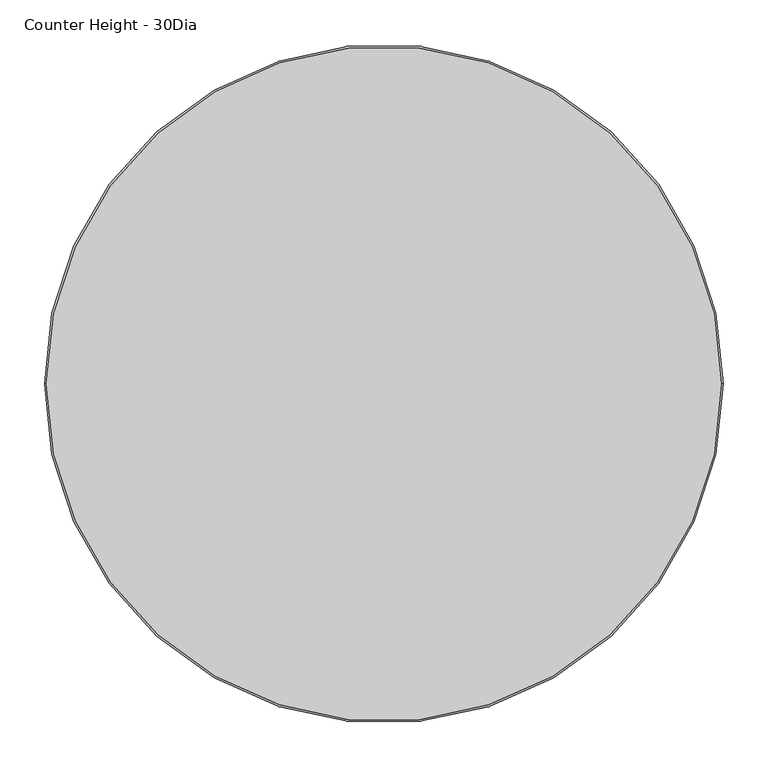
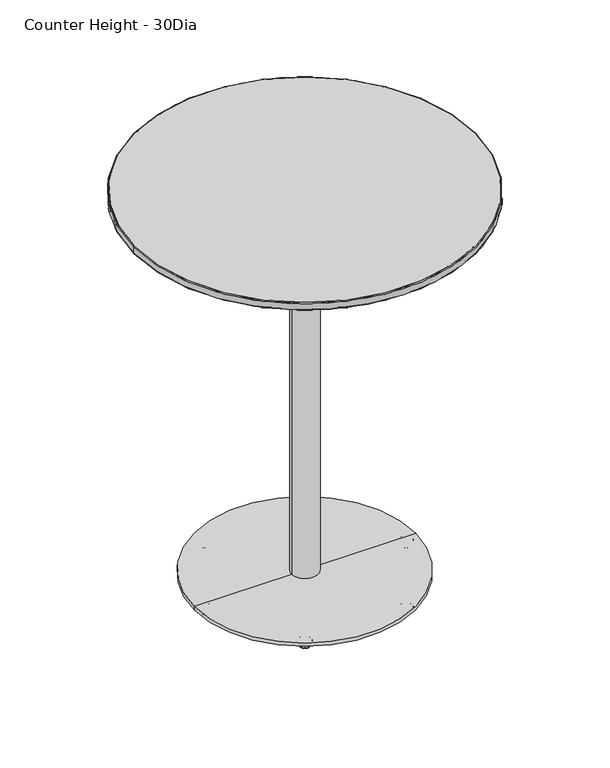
"""IFC4 building model written with IfcOpenShell, lengths in millimetres: furniture geometry, Coalesse_AM_Table_Occasional_Montara650Table_CafeHeight_Round : Counter Height - 30Dia."""

from ifc_helpers import new_model, si_unit, point, frame, origin, origin_with_axes, origin_2d, place, context, project, spatial, polyline, circle_curve, ellipse_curve, trimmed, segment, composite_curve, outline, extrude, source, transform, mapped, element, save
from ifc_brep_helpers import plane_surface, cylinder_surface, revolved_surface, advanced_brep


def counter_height_30dia_2e3c6b03(model_context):
    return source(origin(), model_context, "Body", "SolidModel", [
        advanced_brep(
        [(-112.4946772, 194.8464965, 0.0), (-117.6867095, 203.8393602, 0.0), (-107.302645, 185.8536329, 0.0), (-118.0731448, 204.5086859, 0.5718943), (-106.9162096, 185.1843072, 0.5718943), (-119.6988534, 207.3244957, 11.2068005), (-105.290501, 182.3684973, 11.2068005), (-119.4053894, 206.8162011, 11.9999882), (-105.5839651, 182.8767919, 11.9999882), (-112.4946772, 194.8464965, 11.9999882)],
        [
            (0, 1),
            (1, 2, circle_curve(frame((-112.4946772, 194.8464965, 0.0), z_axis=(0.0, 0.0, -1.0), x_axis=(-0.5000000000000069, 0.8660254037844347, 0.0)), 10.3840645)),
            (2, 0),
            (2, 1, circle_curve(frame((-112.4946772, 194.8464965, 0.0), z_axis=(0.0, 0.0, -1.0), x_axis=(-0.5000000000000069, 0.8660254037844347, 0.0)), 10.3840645)),
            (1, 3, circle_curve(frame((-117.6867095, 203.8393602, 0.8081846), z_axis=(0.8660254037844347, 0.5000000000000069, 0.0), x_axis=(-0.5000000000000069, 0.8660254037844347, 0.0)), 0.8081846)),
            (3, 4, circle_curve(frame((-112.4946772, 194.8464965, 0.5718943), z_axis=(0.0, 0.0, -1.0), x_axis=(-0.5000000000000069, 0.8660254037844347, 0.0)), 11.1569353)),
            (4, 2, circle_curve(frame((-107.302645, 185.8536329, 0.8081846), z_axis=(0.866025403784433, 0.5000000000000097, 0.0), x_axis=(0.5000000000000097, -0.866025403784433, 0.0)), 0.8081846)),
            (4, 3, circle_curve(frame((-112.4946772, 194.8464965, 0.5718943), z_axis=(0.0, 0.0, -1.0), x_axis=(-0.5000000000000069, 0.8660254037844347, 0.0)), 11.1569353)),
            (3, 5),
            (5, 6, circle_curve(frame((-112.4946772, 194.8464965, 11.2068005), z_axis=(0.0, 0.0, -1.0), x_axis=(-0.5000000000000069, 0.8660254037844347, 0.0)), 14.4083524)),
            (6, 4),
            (6, 5, circle_curve(frame((-112.4946772, 194.8464965, 11.2068005), z_axis=(0.0, 0.0, -1.0), x_axis=(-0.5000000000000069, 0.8660254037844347, 0.0)), 14.4083524)),
            (5, 7, circle_curve(frame((-119.4053894, 206.8162011, 11.3862424), z_axis=(0.8660254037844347, 0.5000000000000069, 0.0), x_axis=(-0.5000000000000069, 0.8660254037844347, 0.0)), 0.6137458)),
            (7, 8, circle_curve(frame((-112.4946772, 194.8464965, 11.9999882), z_axis=(0.0, 0.0, -1.0), x_axis=(-0.5000000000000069, 0.8660254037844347, 0.0)), 13.8214243)),
            (8, 6, circle_curve(frame((-105.5839651, 182.8767919, 11.3862424), z_axis=(0.866025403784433, 0.5000000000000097, 0.0), x_axis=(0.5000000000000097, -0.866025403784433, 0.0)), 0.6137458)),
            (8, 7, circle_curve(frame((-112.4946772, 194.8464965, 11.9999882), z_axis=(0.0, 0.0, -1.0), x_axis=(-0.5000000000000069, 0.8660254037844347, 0.0)), 13.8214243)),
            (7, 9),
            (9, 8),
        ],
        [
            plane_surface(frame((-112.4946772, 194.8464965, 0.0), z_axis=(0.0, 0.0, -1.0), x_axis=(-0.5000000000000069, 0.8660254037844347, 0.0))),
            revolved_surface(trimmed(ellipse_curve(frame((-117.6867095, 203.8393602, 0.8081846), z_axis=(-0.8660254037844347, -0.5000000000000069, 0.0), x_axis=(-0.5000000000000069, 0.8660254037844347, 0.0)), 0.8081846, 0.8081846), [point((-118.0731448, 204.5086859, 0.5718943))], [point((-117.6867095, 203.8393602, 0.0))], True, "CARTESIAN"), (-112.4946772, 194.8464965, 12.2086845), (0.0, 0.0, -1.0)),
            revolved_surface(polyline([(-119.6988534, 207.3244957, 11.2068005), (-118.0731448, 204.5086859, 0.5718943)]), (-112.4946772, 194.8464965, 12.2086845), (0.0, 0.0, -1.0)),
            revolved_surface(trimmed(ellipse_curve(frame((-119.4053894, 206.8162011, 11.3862424), z_axis=(-0.8660254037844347, -0.5000000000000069, 0.0), x_axis=(-0.5000000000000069, 0.8660254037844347, 0.0)), 0.6137458, 0.6137458), [point((-119.4053894, 206.8162011, 11.9999882))], [point((-119.6988534, 207.3244957, 11.2068005))], True, "CARTESIAN"), (-112.4946772, 194.8464965, 12.2086845), (0.0, 0.0, -1.0)),
            plane_surface(frame((-112.4946772, 194.8464965, 11.9999882), z_axis=(0.0, 0.0, 1.0), x_axis=(-0.5000000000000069, 0.8660254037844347, 0.0))),
        ],
        [
            (0, [[1, 2, 3]]),
            (0, [[-3, 4, -1]]),
            (1, [[-2, 5, 6, 7]]),
            (1, [[-4, -7, 8, -5]]),
            (2, [[-6, 9, 10, 11]]),
            (2, [[-8, -11, 12, -9]]),
            (3, [[-10, 13, 14, 15]]),
            (3, [[-12, -15, 16, -13]]),
            (4, [[-14, 17, 18]]),
            (4, [[-16, -18, -17]]),
        ],
    ),
        advanced_brep(
        [(107.302645, -185.8536329, 0.0), (117.6867095, -203.8393602, 0.0), (112.4946772, -194.8464965, 0.0), (106.9162096, -185.1843072, 0.5718943), (118.0731448, -204.5086859, 0.5718943), (105.290501, -182.3684973, 11.2068005), (119.6988534, -207.3244957, 11.2068005), (105.5839651, -182.8767919, 11.9999882), (119.4053894, -206.8162011, 11.9999882), (112.4946772, -194.8464965, 11.9999882)],
        [
            (0, 1, circle_curve(frame((112.4946772, -194.8464965, 0.0), z_axis=(0.0, 0.0, -1.0), x_axis=(0.5000000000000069, -0.8660254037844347, 0.0)), 10.3840645)),
            (1, 2),
            (2, 0),
            (1, 0, circle_curve(frame((112.4946772, -194.8464965, 0.0), z_axis=(0.0, 0.0, -1.0), x_axis=(0.5000000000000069, -0.8660254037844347, 0.0)), 10.3840645)),
            (3, 4, circle_curve(frame((112.4946772, -194.8464965, 0.5718943), z_axis=(0.0, 0.0, -1.0), x_axis=(0.5000000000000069, -0.8660254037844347, 0.0)), 11.1569353)),
            (4, 1, circle_curve(frame((117.6867095, -203.8393602, 0.8081846), z_axis=(0.8660254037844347, 0.5000000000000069, 0.0), x_axis=(0.5000000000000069, -0.8660254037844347, 0.0)), 0.8081846)),
            (0, 3, circle_curve(frame((107.302645, -185.8536329, 0.8081846), z_axis=(0.8660254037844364, 0.5000000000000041, 0.0), x_axis=(-0.5000000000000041, 0.8660254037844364, 0.0)), 0.8081846)),
            (4, 3, circle_curve(frame((112.4946772, -194.8464965, 0.5718943), z_axis=(0.0, 0.0, -1.0), x_axis=(0.5000000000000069, -0.8660254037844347, 0.0)), 11.1569353)),
            (5, 6, circle_curve(frame((112.4946772, -194.8464965, 11.2068005), z_axis=(0.0, 0.0, -1.0), x_axis=(0.5000000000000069, -0.8660254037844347, 0.0)), 14.4083524)),
            (6, 4),
            (3, 5),
            (6, 5, circle_curve(frame((112.4946772, -194.8464965, 11.2068005), z_axis=(0.0, 0.0, -1.0), x_axis=(0.5000000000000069, -0.8660254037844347, 0.0)), 14.4083524)),
            (7, 8, circle_curve(frame((112.4946772, -194.8464965, 11.9999882), z_axis=(0.0, 0.0, -1.0), x_axis=(0.5000000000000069, -0.8660254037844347, 0.0)), 13.8214243)),
            (8, 6, circle_curve(frame((119.4053894, -206.8162011, 11.3862424), z_axis=(0.8660254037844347, 0.5000000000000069, 0.0), x_axis=(0.5000000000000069, -0.8660254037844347, 0.0)), 0.6137458)),
            (5, 7, circle_curve(frame((105.5839651, -182.8767919, 11.3862424), z_axis=(0.8660254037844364, 0.5000000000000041, 0.0), x_axis=(-0.5000000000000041, 0.8660254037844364, 0.0)), 0.6137458)),
            (8, 7, circle_curve(frame((112.4946772, -194.8464965, 11.9999882), z_axis=(0.0, 0.0, -1.0), x_axis=(0.5000000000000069, -0.8660254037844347, 0.0)), 13.8214243)),
            (9, 8),
            (7, 9),
        ],
        [
            plane_surface(frame((112.4946772, -194.8464965, 0.0), z_axis=(0.0, 0.0, -1.0), x_axis=(0.5000000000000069, -0.8660254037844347, 0.0))),
            revolved_surface(trimmed(ellipse_curve(frame((117.6867095, -203.8393602, 0.8081846), z_axis=(-0.8660254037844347, -0.5000000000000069, 0.0), x_axis=(0.5000000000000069, -0.8660254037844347, 0.0)), 0.8081846, 0.8081846), [point((117.6867095, -203.8393602, 0.0))], [point((118.0731448, -204.5086859, 0.5718943))], True, "CARTESIAN"), (112.4946772, -194.8464965, 12.2086845), (0.0, 0.0, 1.0)),
            revolved_surface(polyline([(118.0731448, -204.5086859, 0.5718943), (119.6988534, -207.3244957, 11.2068005)]), (112.4946772, -194.8464965, 12.2086845), (0.0, 0.0, 1.0)),
            revolved_surface(trimmed(ellipse_curve(frame((119.4053894, -206.8162011, 11.3862424), z_axis=(-0.8660254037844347, -0.5000000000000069, 0.0), x_axis=(0.5000000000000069, -0.8660254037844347, 0.0)), 0.6137458, 0.6137458), [point((119.6988534, -207.3244957, 11.2068005))], [point((119.4053894, -206.8162011, 11.9999882))], True, "CARTESIAN"), (112.4946772, -194.8464965, 12.2086845), (0.0, 0.0, 1.0)),
            plane_surface(frame((112.4946772, -194.8464965, 11.9999882), z_axis=(0.0, 0.0, 1.0), x_axis=(0.5000000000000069, -0.8660254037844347, 0.0))),
        ],
        [
            (0, [[1, 2, 3]]),
            (0, [[4, -3, -2]]),
            (1, [[5, 6, -1, 7]]),
            (1, [[8, -7, -4, -6]]),
            (2, [[9, 10, -5, 11]]),
            (2, [[12, -11, -8, -10]]),
            (3, [[13, 14, -9, 15]]),
            (3, [[16, -15, -12, -14]]),
            (4, [[17, -13, 18]]),
            (4, [[-18, -16, -17]]),
        ],
    ),
        advanced_brep(
        [(104.863739, 174.0655874, 0.0), (115.2478035, 192.0513148, 0.0), (110.0557713, 183.0584511, 0.0), (104.4773036, 173.3962617, 0.5718943), (115.6342389, 192.7206405, 0.5718943), (102.8515951, 170.5804519, 11.2068005), (117.2599475, 195.5364503, 11.2068005), (103.1450591, 171.0887465, 11.9999882), (116.9664834, 195.0281557, 11.9999882), (110.0557713, 183.0584511, 11.9999882)],
        [
            (0, 1, circle_curve(frame((110.0557713, 183.0584511, 0.0), z_axis=(0.0, 0.0, -1.0), x_axis=(0.5000000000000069, 0.8660254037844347, 0.0)), 10.3840645)),
            (1, 2),
            (2, 0),
            (1, 0, circle_curve(frame((110.0557713, 183.0584511, 0.0), z_axis=(0.0, 0.0, -1.0), x_axis=(0.5000000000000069, 0.8660254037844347, 0.0)), 10.3840645)),
            (3, 4, circle_curve(frame((110.0557713, 183.0584511, 0.5718943), z_axis=(0.0, 0.0, -1.0), x_axis=(0.5000000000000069, 0.8660254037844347, 0.0)), 11.1569353)),
            (4, 1, circle_curve(frame((115.2478035, 192.0513148, 0.8081846), z_axis=(-0.8660254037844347, 0.5000000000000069, 0.0), x_axis=(0.5000000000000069, 0.8660254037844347, 0.0)), 0.8081846)),
            (0, 3, circle_curve(frame((104.863739, 174.0655874, 0.8081846), z_axis=(-0.866025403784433, 0.5000000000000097, 0.0), x_axis=(-0.5000000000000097, -0.866025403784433, 0.0)), 0.8081846)),
            (4, 3, circle_curve(frame((110.0557713, 183.0584511, 0.5718943), z_axis=(0.0, 0.0, -1.0), x_axis=(0.5000000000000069, 0.8660254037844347, 0.0)), 11.1569353)),
            (5, 6, circle_curve(frame((110.0557713, 183.0584511, 11.2068005), z_axis=(0.0, 0.0, -1.0), x_axis=(0.5000000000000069, 0.8660254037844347, 0.0)), 14.4083524)),
            (6, 4),
            (3, 5),
            (6, 5, circle_curve(frame((110.0557713, 183.0584511, 11.2068005), z_axis=(0.0, 0.0, -1.0), x_axis=(0.5000000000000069, 0.8660254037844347, 0.0)), 14.4083524)),
            (7, 8, circle_curve(frame((110.0557713, 183.0584511, 11.9999882), z_axis=(0.0, 0.0, -1.0), x_axis=(0.5000000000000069, 0.8660254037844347, 0.0)), 13.8214243)),
            (8, 6, circle_curve(frame((116.9664834, 195.0281557, 11.3862424), z_axis=(-0.8660254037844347, 0.5000000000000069, 0.0), x_axis=(0.5000000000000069, 0.8660254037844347, 0.0)), 0.6137458)),
            (5, 7, circle_curve(frame((103.1450591, 171.0887465, 11.3862424), z_axis=(-0.866025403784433, 0.5000000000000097, 0.0), x_axis=(-0.5000000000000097, -0.866025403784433, 0.0)), 0.6137458)),
            (8, 7, circle_curve(frame((110.0557713, 183.0584511, 11.9999882), z_axis=(0.0, 0.0, -1.0), x_axis=(0.5000000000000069, 0.8660254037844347, 0.0)), 13.8214243)),
            (9, 8),
            (7, 9),
        ],
        [
            plane_surface(frame((110.0557713, 183.0584511, 0.0), z_axis=(0.0, 0.0, -1.0), x_axis=(0.5000000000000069, 0.8660254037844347, 0.0))),
            revolved_surface(trimmed(ellipse_curve(frame((115.2478035, 192.0513148, 0.8081846), z_axis=(0.8660254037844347, -0.5000000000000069, 0.0), x_axis=(0.5000000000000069, 0.8660254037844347, 0.0)), 0.8081846, 0.8081846), [point((115.2478035, 192.0513148, 0.0))], [point((115.6342389, 192.7206405, 0.5718943))], True, "CARTESIAN"), (110.0557713, 183.0584511, 12.2086845), (0.0, 0.0, 1.0)),
            revolved_surface(polyline([(115.6342389, 192.7206405, 0.5718943), (117.2599475, 195.5364503, 11.2068005)]), (110.0557713, 183.0584511, 12.2086845), (0.0, 0.0, 1.0)),
            revolved_surface(trimmed(ellipse_curve(frame((116.9664834, 195.0281557, 11.3862424), z_axis=(0.8660254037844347, -0.5000000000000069, 0.0), x_axis=(0.5000000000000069, 0.8660254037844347, 0.0)), 0.6137458, 0.6137458), [point((117.2599475, 195.5364503, 11.2068005))], [point((116.9664834, 195.0281557, 11.9999882))], True, "CARTESIAN"), (110.0557713, 183.0584511, 12.2086845), (0.0, 0.0, 1.0)),
            plane_surface(frame((110.0557713, 183.0584511, 11.9999882), z_axis=(0.0, 0.0, 1.0), x_axis=(0.5000000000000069, 0.8660254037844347, 0.0))),
        ],
        [
            (0, [[1, 2, 3]]),
            (0, [[4, -3, -2]]),
            (1, [[5, 6, -1, 7]]),
            (1, [[8, -7, -4, -6]]),
            (2, [[9, 10, -5, 11]]),
            (2, [[12, -11, -8, -10]]),
            (3, [[13, 14, -9, 15]]),
            (3, [[16, -15, -12, -14]]),
            (4, [[17, -13, 18]]),
            (4, [[-18, -16, -17]]),
        ],
    ),
        advanced_brep(
        [(-112.4946772, -194.8464965, 0.0), (-117.6867095, -203.8393602, 0.0), (-107.302645, -185.8536329, 0.0), (-118.0731448, -204.5086859, 0.5718943), (-106.9162096, -185.1843072, 0.5718943), (-119.6988534, -207.3244957, 11.2068005), (-105.290501, -182.3684973, 11.2068005), (-119.4053894, -206.8162011, 11.9999882), (-105.5839651, -182.8767919, 11.9999882), (-112.4946772, -194.8464965, 11.9999882)],
        [
            (0, 1),
            (1, 2, circle_curve(frame((-112.4946772, -194.8464965, 0.0), z_axis=(0.0, 0.0, -1.0), x_axis=(-0.5000000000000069, -0.8660254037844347, 0.0)), 10.3840645)),
            (2, 0),
            (2, 1, circle_curve(frame((-112.4946772, -194.8464965, 0.0), z_axis=(0.0, 0.0, -1.0), x_axis=(-0.5000000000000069, -0.8660254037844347, 0.0)), 10.3840645)),
            (1, 3, circle_curve(frame((-117.6867095, -203.8393602, 0.8081846), z_axis=(-0.8660254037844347, 0.5000000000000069, 0.0), x_axis=(-0.5000000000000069, -0.8660254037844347, 0.0)), 0.8081846)),
            (3, 4, circle_curve(frame((-112.4946772, -194.8464965, 0.5718943), z_axis=(0.0, 0.0, -1.0), x_axis=(-0.5000000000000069, -0.8660254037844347, 0.0)), 11.1569353)),
            (4, 2, circle_curve(frame((-107.302645, -185.8536329, 0.8081846), z_axis=(-0.8660254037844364, 0.5000000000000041, 0.0), x_axis=(0.5000000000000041, 0.8660254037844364, 0.0)), 0.8081846)),
            (4, 3, circle_curve(frame((-112.4946772, -194.8464965, 0.5718943), z_axis=(0.0, 0.0, -1.0), x_axis=(-0.5000000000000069, -0.8660254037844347, 0.0)), 11.1569353)),
            (3, 5),
            (5, 6, circle_curve(frame((-112.4946772, -194.8464965, 11.2068005), z_axis=(0.0, 0.0, -1.0), x_axis=(-0.5000000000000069, -0.8660254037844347, 0.0)), 14.4083524)),
            (6, 4),
            (6, 5, circle_curve(frame((-112.4946772, -194.8464965, 11.2068005), z_axis=(0.0, 0.0, -1.0), x_axis=(-0.5000000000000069, -0.8660254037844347, 0.0)), 14.4083524)),
            (5, 7, circle_curve(frame((-119.4053894, -206.8162011, 11.3862424), z_axis=(-0.8660254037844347, 0.5000000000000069, 0.0), x_axis=(-0.5000000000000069, -0.8660254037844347, 0.0)), 0.6137458)),
            (7, 8, circle_curve(frame((-112.4946772, -194.8464965, 11.9999882), z_axis=(0.0, 0.0, -1.0), x_axis=(-0.5000000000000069, -0.8660254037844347, 0.0)), 13.8214243)),
            (8, 6, circle_curve(frame((-105.5839651, -182.8767919, 11.3862424), z_axis=(-0.8660254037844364, 0.5000000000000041, 0.0), x_axis=(0.5000000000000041, 0.8660254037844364, 0.0)), 0.6137458)),
            (8, 7, circle_curve(frame((-112.4946772, -194.8464965, 11.9999882), z_axis=(0.0, 0.0, -1.0), x_axis=(-0.5000000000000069, -0.8660254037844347, 0.0)), 13.8214243)),
            (7, 9),
            (9, 8),
        ],
        [
            plane_surface(frame((-112.4946772, -194.8464965, 0.0), z_axis=(0.0, 0.0, -1.0), x_axis=(-0.5000000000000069, -0.8660254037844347, 0.0))),
            revolved_surface(trimmed(ellipse_curve(frame((-117.6867095, -203.8393602, 0.8081846), z_axis=(0.8660254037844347, -0.5000000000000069, 0.0), x_axis=(-0.5000000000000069, -0.8660254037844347, 0.0)), 0.8081846, 0.8081846), [point((-118.0731448, -204.5086859, 0.5718943))], [point((-117.6867095, -203.8393602, 0.0))], True, "CARTESIAN"), (-112.4946772, -194.8464965, 12.2086845), (0.0, 0.0, -1.0)),
            revolved_surface(polyline([(-119.6988534, -207.3244957, 11.2068005), (-118.0731448, -204.5086859, 0.5718943)]), (-112.4946772, -194.8464965, 12.2086845), (0.0, 0.0, -1.0)),
            revolved_surface(trimmed(ellipse_curve(frame((-119.4053894, -206.8162011, 11.3862424), z_axis=(0.8660254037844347, -0.5000000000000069, 0.0), x_axis=(-0.5000000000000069, -0.8660254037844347, 0.0)), 0.6137458, 0.6137458), [point((-119.4053894, -206.8162011, 11.9999882))], [point((-119.6988534, -207.3244957, 11.2068005))], True, "CARTESIAN"), (-112.4946772, -194.8464965, 12.2086845), (0.0, 0.0, -1.0)),
            plane_surface(frame((-112.4946772, -194.8464965, 11.9999882), z_axis=(0.0, 0.0, 1.0), x_axis=(-0.5000000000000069, -0.8660254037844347, 0.0))),
        ],
        [
            (0, [[1, 2, 3]]),
            (0, [[-3, 4, -1]]),
            (1, [[-2, 5, 6, 7]]),
            (1, [[-4, -7, 8, -5]]),
            (2, [[-6, 9, 10, 11]]),
            (2, [[-8, -11, 12, -9]]),
            (3, [[-10, 13, 14, 15]]),
            (3, [[-12, -15, 16, -13]]),
            (4, [[-14, 17, 18]]),
            (4, [[-16, -18, -17]]),
        ],
    ),
        advanced_brep(
        [(214.6052899, 0.0, 0.0), (235.3734189, 0.0, 0.0), (224.9893544, 0.0, 0.0), (213.8324192, 0.0, 0.5718943), (236.1462897, 0.0, 0.5718943), (210.5810021, 0.0, 11.2068005), (239.3977068, 0.0, 11.2068005), (211.1679301, 0.0, 11.9999882), (238.8107788, 0.0, 11.9999882), (224.9893544, 0.0, 11.9999882)],
        [
            (0, 1, circle_curve(frame((224.9893544, 0.0, 0.0), z_axis=(0.0, 0.0, -1.0), x_axis=(1.0, 0.0, 0.0)), 10.3840645)),
            (1, 2),
            (2, 0),
            (1, 0, circle_curve(frame((224.9893544, 0.0, 0.0), z_axis=(0.0, 0.0, -1.0), x_axis=(1.0, 0.0, 0.0)), 10.3840645)),
            (3, 4, circle_curve(frame((224.9893544, 0.0, 0.5718943), z_axis=(0.0, 0.0, -1.0), x_axis=(1.0, 0.0, 0.0)), 11.1569353)),
            (4, 1, circle_curve(frame((235.3734189, 0.0, 0.8081846), z_axis=(0.0, 1.0, 0.0), x_axis=(1.0, 0.0, 0.0)), 0.8081846)),
            (0, 3, circle_curve(frame((214.6052899, 0.0, 0.8081846), z_axis=(0.0, 1.0, 0.0), x_axis=(-1.0, 0.0, 0.0)), 0.8081846)),
            (4, 3, circle_curve(frame((224.9893544, 0.0, 0.5718943), z_axis=(0.0, 0.0, -1.0), x_axis=(1.0, 0.0, 0.0)), 11.1569353)),
            (5, 6, circle_curve(frame((224.9893544, 0.0, 11.2068005), z_axis=(0.0, 0.0, -1.0), x_axis=(1.0, 0.0, 0.0)), 14.4083524)),
            (6, 4),
            (3, 5),
            (6, 5, circle_curve(frame((224.9893544, 0.0, 11.2068005), z_axis=(0.0, 0.0, -1.0), x_axis=(1.0, 0.0, 0.0)), 14.4083524)),
            (7, 8, circle_curve(frame((224.9893544, 0.0, 11.9999882), z_axis=(0.0, 0.0, -1.0), x_axis=(1.0, 0.0, 0.0)), 13.8214243)),
            (8, 6, circle_curve(frame((238.8107788, 0.0, 11.3862424), z_axis=(0.0, 1.0, 0.0), x_axis=(1.0, 0.0, 0.0)), 0.6137458)),
            (5, 7, circle_curve(frame((211.1679301, 0.0, 11.3862424), z_axis=(0.0, 1.0, 0.0), x_axis=(-1.0, 0.0, 0.0)), 0.6137458)),
            (8, 7, circle_curve(frame((224.9893544, 0.0, 11.9999882), z_axis=(0.0, 0.0, -1.0), x_axis=(1.0, 0.0, 0.0)), 13.8214243)),
            (9, 8),
            (7, 9),
        ],
        [
            plane_surface(frame((224.9893544, 0.0, 0.0), z_axis=(0.0, 0.0, -1.0), x_axis=(1.0, 0.0, 0.0))),
            revolved_surface(trimmed(ellipse_curve(frame((235.3734189, 0.0, 0.8081846), z_axis=(0.0, -1.0, 0.0), x_axis=(1.0, 0.0, 0.0)), 0.8081846, 0.8081846), [point((235.3734189, 0.0, 0.0))], [point((236.1462897, 0.0, 0.5718943))], True, "CARTESIAN"), (224.9893544, 0.0, 12.2086845), (0.0, 0.0, 1.0)),
            revolved_surface(polyline([(236.1462897, 0.0, 0.5718943), (239.3977068, 0.0, 11.2068005)]), (224.9893544, 0.0, 12.2086845), (0.0, 0.0, 1.0)),
            revolved_surface(trimmed(ellipse_curve(frame((238.8107788, 0.0, 11.3862424), z_axis=(0.0, -1.0, 0.0), x_axis=(1.0, 0.0, 0.0)), 0.6137458, 0.6137458), [point((239.3977068, 0.0, 11.2068005))], [point((238.8107788, 0.0, 11.9999882))], True, "CARTESIAN"), (224.9893544, 0.0, 12.2086845), (0.0, 0.0, 1.0)),
            plane_surface(frame((224.9893544, 0.0, 11.9999882), z_axis=(0.0, 0.0, 1.0), x_axis=(1.0, 0.0, 0.0))),
        ],
        [
            (0, [[1, 2, 3]]),
            (0, [[4, -3, -2]]),
            (1, [[5, 6, -1, 7]]),
            (1, [[8, -7, -4, -6]]),
            (2, [[9, 10, -5, 11]]),
            (2, [[12, -11, -8, -10]]),
            (3, [[13, 14, -9, 15]]),
            (3, [[16, -15, -12, -14]]),
            (4, [[17, -13, 18]]),
            (4, [[-18, -16, -17]]),
        ],
    ),
        advanced_brep(
        [(-334.264, 0.0, 884.430027), (334.264, 0.0, 884.430027), (-378.968, 0.0, 896.695891), (378.968, 0.0, 896.695891)],
        [
            (0, 1, circle_curve(frame((0.0, 0.0, 884.430027), z_axis=(0.0, 0.0, -1.0), x_axis=(-1.0, 0.0, 0.0)), 334.264)),
            (1, 0, circle_curve(frame((0.0, 0.0, 884.430027), z_axis=(0.0, 0.0, -1.0), x_axis=(1.0, 0.0, 0.0)), 334.264)),
            (2, 3, circle_curve(frame((0.0, 0.0, 896.695891), z_axis=(0.0, 0.0, 1.0), x_axis=(1.0, 0.0, 0.0)), 378.968)),
            (3, 2, circle_curve(frame((0.0, 0.0, 896.695891), z_axis=(0.0, 0.0, 1.0), x_axis=(-1.0, 0.0, 0.0)), 378.968)),
            (2, 0),
            (1, 3),
        ],
        [
            plane_surface(frame((0.0, 0.0, 884.430027), z_axis=(0.0, 0.0, -1.0), x_axis=(0.0, -1.0, 0.0))),
            plane_surface(frame((0.0, 0.0, 896.695891), z_axis=(0.0, 0.0, 1.0), x_axis=(0.0, -1.0, 0.0))),
            revolved_surface(polyline([(334.26399988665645, 0.0, 884.430027), (378.968, 0.0, 896.695891)]), (0.0, 0.0, 792.7148169), (0.0, 0.0, 1.0)),
            revolved_surface(polyline([(-334.26399988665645, 0.0, 884.430027), (-378.968, 0.0, 896.695891)]), (0.0, 0.0, 792.7148169), (0.0, 0.0, 1.0)),
        ],
        [
            (0, [[1, 2]]),
            (1, [[3, 4]]),
            (2, [[-3, 5, -2, 6]]),
            (3, [[-4, -6, -1, -5]]),
        ],
    ),
        extrude(outline(composite_curve([segment(trimmed(circle_curve(origin_2d(), 378.968), [point((-378.968, 0.0))], [point((378.968, 0.0))], False, "CARTESIAN"), True, "CONTINUOUS"), segment(trimmed(circle_curve(origin_2d(), 378.968), [point((378.968, 0.0))], [point((-378.968, 0.0))], False, "CARTESIAN"), True, "CONTINUOUS")], self_intersect=False)), frame((0.0, 0.0, 896.695891), z_axis=(0.0, 0.0, 1.0), x_axis=(1.0, 0.0, 0.0)), (0.0, 0.0, 1.0), 17.704109),
        advanced_brep(
        [(-224.9893544, 0.0, 0.0), (-235.3734189, 0.0, 0.0), (-214.6052899, 0.0, 0.0), (-236.1462897, 0.0, 0.5718943), (-213.8324192, 0.0, 0.5718943), (-239.3977068, 0.0, 11.2068005), (-210.5810021, 0.0, 11.2068005), (-238.8107788, 0.0, 11.9999882), (-211.1679301, 0.0, 11.9999882), (-224.9893544, 0.0, 11.9999882)],
        [
            (0, 1),
            (1, 2, circle_curve(frame((-224.9893544, 0.0, 0.0), z_axis=(0.0, 0.0, -1.0), x_axis=(-1.0, 0.0, 0.0)), 10.3840645)),
            (2, 0),
            (2, 1, circle_curve(frame((-224.9893544, 0.0, 0.0), z_axis=(0.0, 0.0, -1.0), x_axis=(-1.0, 0.0, 0.0)), 10.3840645)),
            (1, 3, circle_curve(frame((-235.3734189, 0.0, 0.8081846), z_axis=(0.0, 1.0, 0.0), x_axis=(-1.0, 0.0, 0.0)), 0.8081846)),
            (3, 4, circle_curve(frame((-224.9893544, 0.0, 0.5718943), z_axis=(0.0, 0.0, -1.0), x_axis=(-1.0, 0.0, 0.0)), 11.1569353)),
            (4, 2, circle_curve(frame((-214.6052899, 0.0, 0.8081846), z_axis=(0.0, 1.0, 0.0), x_axis=(1.0, 0.0, 0.0)), 0.8081846)),
            (4, 3, circle_curve(frame((-224.9893544, 0.0, 0.5718943), z_axis=(0.0, 0.0, -1.0), x_axis=(-1.0, 0.0, 0.0)), 11.1569353)),
            (3, 5),
            (5, 6, circle_curve(frame((-224.9893544, 0.0, 11.2068005), z_axis=(0.0, 0.0, -1.0), x_axis=(-1.0, 0.0, 0.0)), 14.4083524)),
            (6, 4),
            (6, 5, circle_curve(frame((-224.9893544, 0.0, 11.2068005), z_axis=(0.0, 0.0, -1.0), x_axis=(-1.0, 0.0, 0.0)), 14.4083524)),
            (5, 7, circle_curve(frame((-238.8107788, 0.0, 11.3862424), z_axis=(0.0, 1.0, 0.0), x_axis=(-1.0, 0.0, 0.0)), 0.6137458)),
            (7, 8, circle_curve(frame((-224.9893544, 0.0, 11.9999882), z_axis=(0.0, 0.0, -1.0), x_axis=(-1.0, 0.0, 0.0)), 13.8214243)),
            (8, 6, circle_curve(frame((-211.1679301, 0.0, 11.3862424), z_axis=(0.0, 1.0, 0.0), x_axis=(1.0, 0.0, 0.0)), 0.6137458)),
            (8, 7, circle_curve(frame((-224.9893544, 0.0, 11.9999882), z_axis=(0.0, 0.0, -1.0), x_axis=(-1.0, 0.0, 0.0)), 13.8214243)),
            (7, 9),
            (9, 8),
        ],
        [
            plane_surface(frame((-224.9893544, 0.0, 0.0), z_axis=(0.0, 0.0, -1.0), x_axis=(-1.0, 0.0, 0.0))),
            revolved_surface(trimmed(ellipse_curve(frame((-235.3734189, 0.0, 0.8081846), z_axis=(0.0, -1.0, 0.0), x_axis=(-1.0, 0.0, 0.0)), 0.8081846, 0.8081846), [point((-236.1462897, 0.0, 0.5718943))], [point((-235.3734189, 0.0, 0.0))], True, "CARTESIAN"), (-224.9893544, 0.0, 12.2086845), (0.0, 0.0, -1.0)),
            revolved_surface(polyline([(-239.3977068, 0.0, 11.2068005), (-236.1462897, 0.0, 0.5718943)]), (-224.9893544, 0.0, 12.2086845), (0.0, 0.0, -1.0)),
            revolved_surface(trimmed(ellipse_curve(frame((-238.8107788, 0.0, 11.3862424), z_axis=(0.0, -1.0, 0.0), x_axis=(-1.0, 0.0, 0.0)), 0.6137458, 0.6137458), [point((-238.8107788, 0.0, 11.9999882))], [point((-239.3977068, 0.0, 11.2068005))], True, "CARTESIAN"), (-224.9893544, 0.0, 12.2086845), (0.0, 0.0, -1.0)),
            plane_surface(frame((-224.9893544, 0.0, 11.9999882), z_axis=(0.0, 0.0, 1.0), x_axis=(-1.0, 0.0, 0.0))),
        ],
        [
            (0, [[1, 2, 3]]),
            (0, [[-3, 4, -1]]),
            (1, [[-2, 5, 6, 7]]),
            (1, [[-4, -7, 8, -5]]),
            (2, [[-6, 9, 10, 11]]),
            (2, [[-8, -11, 12, -9]]),
            (3, [[-10, 13, 14, 15]]),
            (3, [[-12, -15, 16, -13]]),
            (4, [[-14, 17, 18]]),
            (4, [[-16, -18, -17]]),
        ],
    ),
        advanced_brep(
        [(381.0438665, 0.0, 898.6278467), (-381.0438665, 0.0, 898.6278467), (-378.968, 0.0, 896.695891), (378.968, 0.0, 896.695891), (381.0438665, 0.0, 912.3999283), (-381.0438665, 0.0, 912.3999283), (378.968, 0.0, 914.4), (-378.968, 0.0, 914.4)],
        [
            (0, 1, circle_curve(frame((0.0, 0.0, 898.6278467), z_axis=(0.0, 0.0, -1.0), x_axis=(-1.0, 0.0, 0.0)), 381.0438665)),
            (1, 2, circle_curve(frame((-379.1069224, 0.0, 898.6278467), z_axis=(0.0, -1.0, 0.0), x_axis=(1.0, 0.0, 0.0)), 1.9369441)),
            (2, 3, circle_curve(frame((0.0, 0.0, 896.695891), z_axis=(0.0, 0.0, 1.0), x_axis=(-1.0, 0.0, 0.0)), 378.968)),
            (3, 0, circle_curve(frame((379.1069224, 0.0, 898.6278467), z_axis=(0.0, -1.0, 0.0), x_axis=(-1.0, 0.0, 0.0)), 1.9369441)),
            (4, 5, circle_curve(frame((0.0, 0.0, 912.3999283), z_axis=(0.0, 0.0, -1.0), x_axis=(-1.0, 0.0, 0.0)), 381.0438665)),
            (5, 1),
            (0, 4),
            (6, 7, circle_curve(frame((0.0, 0.0, 914.4), z_axis=(0.0, 0.0, -1.0), x_axis=(-1.0, 0.0, 0.0)), 378.968)),
            (7, 5, circle_curve(frame((-379.0424111, 0.0, 912.3999283), z_axis=(0.0, -1.0, 0.0), x_axis=(1.0, 0.0, 0.0)), 2.0014554)),
            (4, 6, circle_curve(frame((379.0424111, 0.0, 912.3999283), z_axis=(0.0, -1.0, 0.0), x_axis=(-1.0, 0.0, 0.0)), 2.0014554)),
            (2, 7),
            (6, 3),
            (1, 0, circle_curve(frame((0.0, 0.0, 898.6278467), z_axis=(0.0, 0.0, -1.0), x_axis=(1.0, 0.0, 0.0)), 381.0438665)),
            (3, 2, circle_curve(frame((0.0, 0.0, 896.695891), z_axis=(0.0, 0.0, 1.0), x_axis=(1.0, 0.0, 0.0)), 378.968)),
            (5, 4, circle_curve(frame((0.0, 0.0, 912.3999283), z_axis=(0.0, 0.0, -1.0), x_axis=(1.0, 0.0, 0.0)), 381.0438665)),
            (7, 6, circle_curve(frame((0.0, 0.0, 914.4), z_axis=(0.0, 0.0, -1.0), x_axis=(1.0, 0.0, 0.0)), 378.968)),
        ],
        [
            revolved_surface(trimmed(ellipse_curve(frame((-379.1069224, 0.0, 898.6278467), z_axis=(0.0, 1.0, 0.0), x_axis=(1.0, 0.0, 0.0)), 1.9369441, 1.9369441), [point((-378.968, 0.0, 896.695891))], [point((-381.0438665, 0.0, 898.6278467))], True, "CARTESIAN"), (0.0, 0.0, 0.0), (0.0, 0.0, 1.0)),
            cylinder_surface(frame((0.0, 0.0, 0.0), z_axis=(0.0, 0.0, 1.0), x_axis=(-1.0, 0.0, 0.0)), 381.0438665),
            revolved_surface(trimmed(ellipse_curve(frame((-379.0424111, 0.0, 912.3999283), z_axis=(0.0, 1.0, 0.0), x_axis=(1.0, 0.0, 0.0)), 2.0014554, 2.0014554), [point((-381.0438665, 0.0, 912.3999283))], [point((-378.968, 0.0, 914.4))], True, "CARTESIAN"), (0.0, 0.0, 0.0), (0.0, 0.0, 1.0)),
            revolved_surface(polyline([(-378.968, 0.0, 914.4), (-378.968, 0.0, 896.695891)]), (0.0, 0.0, 0.0), (0.0, 0.0, 1.0)),
            revolved_surface(trimmed(ellipse_curve(frame((379.1069224, 0.0, 898.6278467), z_axis=(0.0, -1.0, 0.0), x_axis=(-1.0, 0.0, 0.0)), 1.9369441, 1.9369441), [point((378.968, 0.0, 896.695891))], [point((381.0438665, 0.0, 898.6278467))], True, "CARTESIAN"), (0.0, 0.0, 0.0), (0.0, 0.0, 1.0)),
            cylinder_surface(origin_with_axes(), 381.0438665),
            revolved_surface(trimmed(ellipse_curve(frame((379.0424111, 0.0, 912.3999283), z_axis=(0.0, -1.0, 0.0), x_axis=(-1.0, 0.0, 0.0)), 2.0014554, 2.0014554), [point((381.0438665, 0.0, 912.3999283))], [point((378.968, 0.0, 914.4))], True, "CARTESIAN"), (0.0, 0.0, 0.0), (0.0, 0.0, 1.0)),
            revolved_surface(polyline([(378.968, 0.0, 914.4), (378.968, 0.0, 896.695891)]), (0.0, 0.0, 0.0), (0.0, 0.0, 1.0)),
        ],
        [
            (0, [[1, 2, 3, 4]]),
            (1, [[5, 6, -1, 7]]),
            (2, [[8, 9, -5, 10]]),
            (3, [[-3, 11, -8, 12]]),
            (4, [[13, -4, 14, -2]]),
            (5, [[15, -7, -13, -6]]),
            (6, [[16, -10, -15, -9]]),
            (7, [[-14, -12, -16, -11]]),
        ],
    ),
        advanced_brep(
        [(131.6004101, 0.0, 881.255027), (-131.6004101, 0.0, 881.255027), (-176.1626132, 0.0, 881.255027), (176.1626132, 0.0, 881.255027), (121.0488662, 0.0, 880.1460151), (-121.0488662, 0.0, 880.1460151), (48.7461809, 0.0, 865.4837029), (-48.7461809, 0.0, 865.4837029), (37.412985, 0.0, 865.4837029), (-37.412985, 0.0, 865.4837029), (29.5495828, 0.0, 19.9999965), (-29.5495828, 0.0, 19.9999965), (-29.5495828, 0.0, 877.2852036), (29.5495828, 0.0, 877.2852036), (246.3799842, 0.0, 19.9999965), (-246.3799842, 0.0, 19.9999965), (246.3799842, 0.0, 11.9999882), (-246.3799842, 0.0, 11.9999882), (0.0, 0.0, 11.9999882), (176.1626132, 0.0, 884.430027), (-176.1626132, 0.0, 884.430027), (0.0, 0.0, 884.430027), (33.3511087, 0.0, 866.9383874), (-33.3511087, 0.0, 866.9383874), (31.712334, 0.0, 877.2852036), (-31.712334, 0.0, 877.2852036)],
        [
            (0, 1, circle_curve(frame((0.0, 0.0, 881.255027), z_axis=(0.0, 0.0, 1.0), x_axis=(-1.0, 0.0, 0.0)), 131.6004101)),
            (1, 2),
            (2, 3, circle_curve(frame((0.0, 0.0, 881.255027), z_axis=(0.0, 0.0, -1.0), x_axis=(-1.0, 0.0, 0.0)), 176.1626132)),
            (3, 0),
            (1, 0, circle_curve(frame((0.0, 0.0, 881.255027), z_axis=(0.0, 0.0, 1.0), x_axis=(-1.0, 0.0, 0.0)), 131.6004101)),
            (3, 2, circle_curve(frame((0.0, 0.0, 881.255027), z_axis=(0.0, 0.0, -1.0), x_axis=(-1.0, 0.0, 0.0)), 176.1626132)),
            (4, 5, circle_curve(frame((0.0, 0.0, 880.1460151), z_axis=(0.0, 0.0, 1.0), x_axis=(-1.0, 0.0, 0.0)), 121.0488662)),
            (5, 1),
            (0, 4),
            (5, 4, circle_curve(frame((0.0, 0.0, 880.1460151), z_axis=(0.0, 0.0, 1.0), x_axis=(-1.0, 0.0, 0.0)), 121.0488662)),
            (6, 7, circle_curve(frame((0.0, 0.0, 865.4837029), z_axis=(0.0, 0.0, 1.0), x_axis=(-1.0, 0.0, 0.0)), 48.7461809)),
            (7, 5),
            (4, 6),
            (7, 6, circle_curve(frame((0.0, 0.0, 865.4837029), z_axis=(0.0, 0.0, 1.0), x_axis=(-1.0, 0.0, 0.0)), 48.7461809)),
            (8, 9, circle_curve(frame((0.0, 0.0, 865.4837029), z_axis=(0.0, 0.0, 1.0), x_axis=(-1.0, 0.0, 0.0)), 37.412985)),
            (9, 7),
            (6, 8),
            (9, 8, circle_curve(frame((0.0, 0.0, 865.4837029), z_axis=(0.0, 0.0, 1.0), x_axis=(-1.0, 0.0, 0.0)), 37.412985)),
            (10, 11, circle_curve(frame((0.0, 0.0, 19.9999965), z_axis=(0.0, 0.0, 1.0), x_axis=(-1.0, 0.0, 0.0)), 29.5495828)),
            (11, 12),
            (12, 13, circle_curve(frame((0.0, 0.0, 877.2852036), z_axis=(0.0, 0.0, -1.0), x_axis=(-1.0, 0.0, 0.0)), 29.5495828)),
            (13, 10),
            (11, 10, circle_curve(frame((0.0, 0.0, 19.9999965), z_axis=(0.0, 0.0, 1.0), x_axis=(-1.0, 0.0, 0.0)), 29.5495828)),
            (13, 12, circle_curve(frame((0.0, 0.0, 877.2852036), z_axis=(0.0, 0.0, -1.0), x_axis=(-1.0, 0.0, 0.0)), 29.5495828)),
            (14, 15, circle_curve(frame((0.0, 0.0, 19.9999965), z_axis=(0.0, 0.0, 1.0), x_axis=(-1.0, 0.0, 0.0)), 246.3799842)),
            (15, 11),
            (10, 14),
            (15, 14, circle_curve(frame((0.0, 0.0, 19.9999965), z_axis=(0.0, 0.0, 1.0), x_axis=(-1.0, 0.0, 0.0)), 246.3799842)),
            (16, 17, circle_curve(frame((0.0, 0.0, 11.9999882), z_axis=(0.0, 0.0, 1.0), x_axis=(-1.0, 0.0, 0.0)), 246.3799842)),
            (17, 15),
            (14, 16),
            (17, 16, circle_curve(frame((0.0, 0.0, 11.9999882), z_axis=(0.0, 0.0, 1.0), x_axis=(-1.0, 0.0, 0.0)), 246.3799842)),
            (18, 17),
            (16, 18),
            (19, 20, circle_curve(frame((0.0, 0.0, 884.430027), z_axis=(0.0, 0.0, 1.0), x_axis=(-1.0, 0.0, 0.0)), 176.1626132)),
            (20, 21),
            (21, 19),
            (20, 19, circle_curve(frame((0.0, 0.0, 884.430027), z_axis=(0.0, 0.0, 1.0), x_axis=(-1.0, 0.0, 0.0)), 176.1626132)),
            (2, 20),
            (19, 3),
            (22, 23, circle_curve(frame((0.0, 0.0, 866.9383874), z_axis=(0.0, 0.0, 1.0), x_axis=(-1.0, 0.0, 0.0)), 33.3511087)),
            (23, 9),
            (8, 22),
            (23, 22, circle_curve(frame((0.0, 0.0, 866.9383874), z_axis=(0.0, 0.0, 1.0), x_axis=(-1.0, 0.0, 0.0)), 33.3511087)),
            (24, 25, circle_curve(frame((0.0, 0.0, 877.2852036), z_axis=(0.0, 0.0, 1.0), x_axis=(-1.0, 0.0, 0.0)), 31.712334)),
            (25, 23),
            (22, 24),
            (25, 24, circle_curve(frame((0.0, 0.0, 877.2852036), z_axis=(0.0, 0.0, 1.0), x_axis=(-1.0, 0.0, 0.0)), 31.712334)),
            (12, 25),
            (24, 13),
        ],
        [
            plane_surface(frame((0.0, 0.0, 881.255027), z_axis=(0.0, 0.0, -1.0), x_axis=(-1.0, 0.0, 0.0))),
            revolved_surface(polyline([(-131.6004101, 0.0, 881.255027), (-121.0488662, 0.0, 880.1460151)]), (0.0, 0.0, 629.5999965), (0.0, 0.0, -1.0)),
            revolved_surface(polyline([(-121.0488662, 0.0, 880.1460151), (-48.7461809, 0.0, 865.4837029)]), (0.0, 0.0, 629.5999965), (0.0, 0.0, -1.0)),
            plane_surface(frame((0.0, 0.0, 865.4837029), z_axis=(0.0, 0.0, -1.0), x_axis=(-1.0, 0.0, 0.0))),
            cylinder_surface(frame((0.0, 0.0, 629.5999965), z_axis=(0.0, 0.0, -1.0), x_axis=(-1.0, 0.0, 0.0)), 29.5495828),
            plane_surface(frame((0.0, 0.0, 19.9999965), z_axis=(0.0, 0.0, 1.0), x_axis=(-1.0, 0.0, 0.0))),
            cylinder_surface(frame((0.0, 0.0, 629.5999965), z_axis=(0.0, 0.0, -1.0), x_axis=(-1.0, 0.0, 0.0)), 246.3799842),
            plane_surface(frame((0.0, 0.0, 11.9999882), z_axis=(0.0, 0.0, -1.0), x_axis=(-1.0, 0.0, 0.0))),
            plane_surface(frame((0.0, 0.0, 884.430027), z_axis=(0.0, 0.0, 1.0), x_axis=(-1.0, 0.0, 0.0))),
            cylinder_surface(frame((0.0, 0.0, 629.5999965), z_axis=(0.0, 0.0, -1.0), x_axis=(-1.0, 0.0, 0.0)), 176.1626132),
            revolved_surface(polyline([(-37.412985, 0.0, 865.4837029), (-33.3511087, 0.0, 866.9383874)]), (0.0, 0.0, 629.5999965), (0.0, 0.0, -1.0)),
            revolved_surface(polyline([(-33.3511087, 0.0, 866.9383874), (-31.712334, 0.0, 877.2852036)]), (0.0, 0.0, 629.5999965), (0.0, 0.0, -1.0)),
            plane_surface(frame((0.0, 0.0, 877.2852036), z_axis=(0.0, 0.0, -1.0), x_axis=(-1.0, 0.0, 0.0))),
        ],
        [
            (0, [[1, 2, 3, 4]]),
            (0, [[5, -4, 6, -2]]),
            (1, [[7, 8, -1, 9]]),
            (1, [[10, -9, -5, -8]]),
            (2, [[11, 12, -7, 13]]),
            (2, [[14, -13, -10, -12]]),
            (3, [[15, 16, -11, 17]]),
            (3, [[18, -17, -14, -16]]),
            (4, [[19, 20, 21, 22]]),
            (4, [[23, -22, 24, -20]]),
            (5, [[25, 26, -19, 27]]),
            (5, [[28, -27, -23, -26]]),
            (6, [[29, 30, -25, 31]]),
            (6, [[32, -31, -28, -30]]),
            (7, [[33, -29, 34]]),
            (7, [[-34, -32, -33]]),
            (8, [[35, 36, 37]]),
            (8, [[38, -37, -36]]),
            (9, [[-3, 39, -35, 40]]),
            (9, [[-6, -40, -38, -39]]),
            (10, [[41, 42, -15, 43]]),
            (10, [[44, -43, -18, -42]]),
            (11, [[45, 46, -41, 47]]),
            (11, [[48, -47, -44, -46]]),
            (12, [[-21, 49, -45, 50]]),
            (12, [[-24, -50, -48, -49]]),
        ],
    ),
    ])


if __name__ == "__main__":
    model = new_model("IFC4")
    model_context = context("Model", 3, world=origin())
    ifc_project = project(units=[si_unit("LENGTHUNIT", "METRE", prefix="MILLI")], contexts=[model_context])
    site = spatial("IfcSite", under=ifc_project)
    building = spatial("IfcBuilding", under=site)
    placement = place(None, origin())
    counter_height_30dia_shape = counter_height_30dia_2e3c6b03(model_context)
    element("IfcFurniture", 1, ObjectType="Coalesse_AM_Table_Occasional_Montara650Table_CafeHeight_Round : Counter Height - 30Dia", at=placement, inside=building, context=model_context, shape_type="MappedRepresentation", body=[
        mapped(counter_height_30dia_shape, transform((0.0, 0.0, 0.0), x_axis=(1.0, 0.0, 0.0), y_axis=(0.0, 1.0, 0.0), z_axis=(0.0, 0.0, 1.0))),
    ])
    save(model, "model.ifc")
